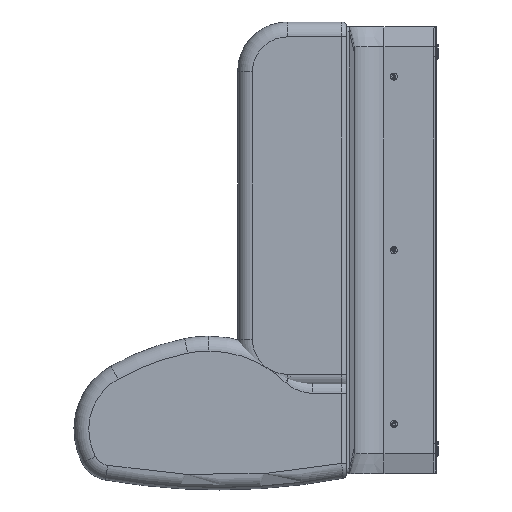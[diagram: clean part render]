
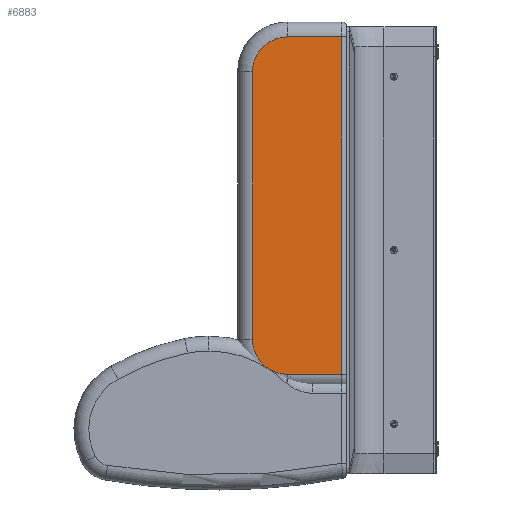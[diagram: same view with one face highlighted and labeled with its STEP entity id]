
A CAD part, left-side view. The second image highlights one B-rep face of the part: STEP entity #6883.
In plain terms, the highlighted planar face has unit normal (-1, 0, 0).
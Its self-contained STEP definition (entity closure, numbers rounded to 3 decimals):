
#133 = CARTESIAN_POINT ( 'NONE',  ( -540., 190., 10. ) ) ;
#609 = DIRECTION ( 'NONE',  ( 0., 0., -1. ) ) ;
#614 = VECTOR ( 'NONE', #3689, 1000. ) ;
#796 = ORIENTED_EDGE ( 'NONE', *, *, #1822, .T. ) ;
#854 = EDGE_CURVE ( 'NONE', #7787, #2547, #1433, .T. ) ;
#896 = DIRECTION ( 'NONE',  ( 0., 0., -1. ) ) ;
#1017 = AXIS2_PLACEMENT_3D ( 'NONE', #3233, #6684, #609 ) ;
#1433 = CIRCLE ( 'NONE', #1017, 70. ) ;
#1547 = EDGE_CURVE ( 'NONE', #6415, #2064, #7068, .T. ) ;
#1679 = CARTESIAN_POINT ( 'NONE',  ( -540., 220., -700. ) ) ;
#1822 = EDGE_CURVE ( 'NONE', #2547, #6155, #6202, .T. ) ;
#2064 = VERTEX_POINT ( 'NONE', #8732 ) ;
#2178 = CARTESIAN_POINT ( 'NONE',  ( -540., 10., -20. ) ) ;
#2279 = VERTEX_POINT ( 'NONE', #2178 ) ;
#2526 = PLANE ( 'NONE',  #8232 ) ;
#2547 = VERTEX_POINT ( 'NONE', #7039 ) ;
#2594 = LINE ( 'NONE', #2770, #3411 ) ;
#2627 = CARTESIAN_POINT ( 'NONE',  ( -540., 120., -700. ) ) ;
#2770 = CARTESIAN_POINT ( 'NONE',  ( -540., 10., -20. ) ) ;
#2775 = AXIS2_PLACEMENT_3D ( 'NONE', #6403, #4951, #896 ) ;
#2900 = ORIENTED_EDGE ( 'NONE', *, *, #854, .T. ) ;
#3153 = FACE_OUTER_BOUND ( 'NONE', #7164, .T. ) ;
#3233 = CARTESIAN_POINT ( 'NONE',  ( -540., 120., -90. ) ) ;
#3411 = VECTOR ( 'NONE', #6709, 1000. ) ;
#3689 = DIRECTION ( 'NONE',  ( 0., -1., 0. ) ) ;
#3808 = CARTESIAN_POINT ( 'NONE',  ( -540., 220., 10. ) ) ;
#3903 = CIRCLE ( 'NONE', #2775, 70. ) ;
#4490 = CARTESIAN_POINT ( 'NONE',  ( -540., 220., -20. ) ) ;
#4688 = ORIENTED_EDGE ( 'NONE', *, *, #1547, .T. ) ;
#4872 = EDGE_CURVE ( 'NONE', #6155, #6415, #3903, .T. ) ;
#4951 = DIRECTION ( 'NONE',  ( -1., 0., 0. ) ) ;
#5850 = DIRECTION ( 'NONE',  ( 1., 0., 0. ) ) ;
#5927 = DIRECTION ( 'NONE',  ( 0., 1., 0. ) ) ;
#6155 = VERTEX_POINT ( 'NONE', #7911 ) ;
#6202 = LINE ( 'NONE', #133, #6255 ) ;
#6255 = VECTOR ( 'NONE', #7629, 1000. ) ;
#6403 = CARTESIAN_POINT ( 'NONE',  ( -540., 120., -630. ) ) ;
#6415 = VERTEX_POINT ( 'NONE', #2627 ) ;
#6684 = DIRECTION ( 'NONE',  ( -1., 0., 0. ) ) ;
#6709 = DIRECTION ( 'NONE',  ( 0., 0., 1. ) ) ;
#6883 = ADVANCED_FACE ( 'NONE', ( #3153 ), #2526, .F. ) ;
#6938 = EDGE_CURVE ( 'NONE', #2279, #7787, #8503, .T. ) ;
#7039 = CARTESIAN_POINT ( 'NONE',  ( -540., 190., -90. ) ) ;
#7068 = LINE ( 'NONE', #1679, #614 ) ;
#7164 = EDGE_LOOP ( 'NONE', ( #4688, #8123, #7297, #2900, #796, #7239 ) ) ;
#7239 = ORIENTED_EDGE ( 'NONE', *, *, #4872, .T. ) ;
#7297 = ORIENTED_EDGE ( 'NONE', *, *, #6938, .T. ) ;
#7391 = VECTOR ( 'NONE', #5927, 1000. ) ;
#7629 = DIRECTION ( 'NONE',  ( 0., 0., -1. ) ) ;
#7787 = VERTEX_POINT ( 'NONE', #8193 ) ;
#7911 = CARTESIAN_POINT ( 'NONE',  ( -540., 190., -630. ) ) ;
#7931 = DIRECTION ( 'NONE',  ( 0., 0., -1. ) ) ;
#8123 = ORIENTED_EDGE ( 'NONE', *, *, #8548, .T. ) ;
#8193 = CARTESIAN_POINT ( 'NONE',  ( -540., 120., -20. ) ) ;
#8232 = AXIS2_PLACEMENT_3D ( 'NONE', #3808, #5850, #7931 ) ;
#8503 = LINE ( 'NONE', #4490, #7391 ) ;
#8548 = EDGE_CURVE ( 'NONE', #2064, #2279, #2594, .T. ) ;
#8732 = CARTESIAN_POINT ( 'NONE',  ( -540., 10., -700. ) ) ;
